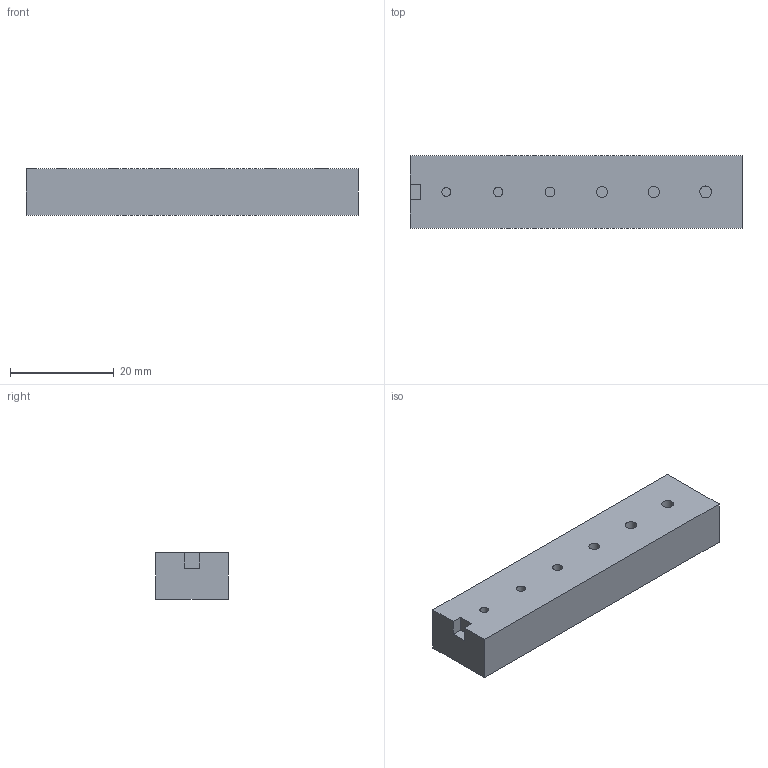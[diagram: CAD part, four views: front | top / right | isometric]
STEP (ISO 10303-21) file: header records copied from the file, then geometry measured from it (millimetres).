
FILE_DESCRIPTION(('Open CASCADE Model'),'2;1');
FILE_NAME('Open CASCADE Shape Model','2026-09-15T14:11:01',('Author'),( 'Open CASCADE'),'Open CASCADE STEP processor 7.7','Open CASCADE 7.7' ,'Unknown');
FILE_SCHEMA(('AUTOMOTIVE_DESIGN { 1 0 10303 214 1 1 1 1 }'));
Length unit declared in the file: millimetre
Products named in the file (1): SOLID
Bounding box: 64 x 14 x 9 mm (x, y, z)
Volume: 7912.5 mm3; surface area: 3471.9 mm2
Topology: 1 solids, 1 shells, 22 faces, 42 edges, 28 vertices
Faces by surface type: plane 16, cylinder 6
Full cylindrical faces by diameter (mm): 1.7 x1, 1.8 x1, 1.9 x1, 2.1 x1, 2.2 x1, 2.3 x1
Entity records: 1102 total; most frequent: CARTESIAN_POINT 189, DIRECTION 172, LINE 90, VECTOR 90, ORIENTED_EDGE 84, PCURVE 84, DEFINITIONAL_REPRESENTATION 84, EDGE_CURVE 42
